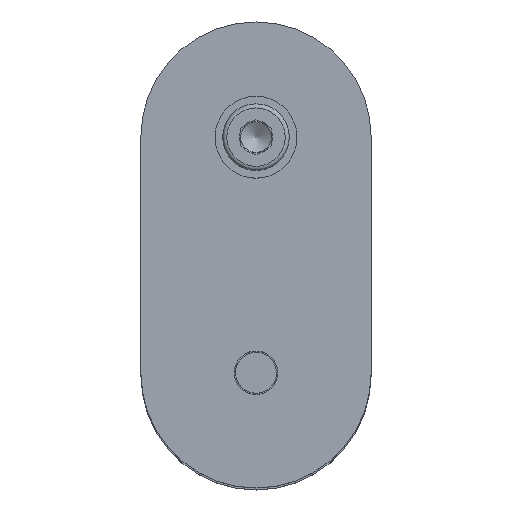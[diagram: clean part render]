
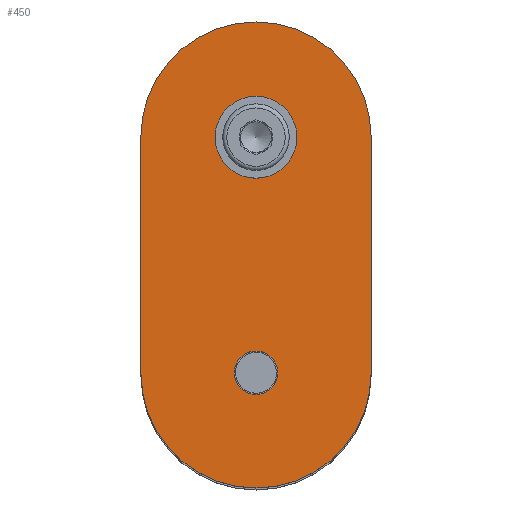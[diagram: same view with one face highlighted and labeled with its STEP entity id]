
A CAD part, top view. The second image highlights one B-rep face of the part: STEP entity #450.
In plain terms, the highlighted planar face has unit normal (0, 0, 1).
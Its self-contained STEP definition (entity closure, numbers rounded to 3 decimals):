
#1 = DIRECTION ( 'NONE',  ( 0., 0., 1. ) ) ;
#53 = DIRECTION ( 'NONE',  ( 0., 0., 1. ) ) ;
#62 = CARTESIAN_POINT ( 'NONE',  ( 0., 0., 8. ) ) ;
#76 = VECTOR ( 'NONE', #914, 1000. ) ;
#79 = CARTESIAN_POINT ( 'NONE',  ( 45., -46., 8. ) ) ;
#119 = VERTEX_POINT ( 'NONE', #772 ) ;
#157 = DIRECTION ( 'NONE',  ( 0., 0., 1. ) ) ;
#175 = AXIS2_PLACEMENT_3D ( 'NONE', #1868, #53, #704 ) ;
#211 = DIRECTION ( 'NONE',  ( 0., -1., 0. ) ) ;
#259 = CARTESIAN_POINT ( 'NONE',  ( 45., 0., 8. ) ) ;
#308 = ORIENTED_EDGE ( 'NONE', *, *, #1117, .T. ) ;
#319 = ORIENTED_EDGE ( 'NONE', *, *, #1036, .T. ) ;
#441 = ORIENTED_EDGE ( 'NONE', *, *, #2034, .T. ) ;
#450 = ADVANCED_FACE ( 'NONE', ( #1276, #514, #1308 ), #1851, .T. ) ;
#463 = AXIS2_PLACEMENT_3D ( 'NONE', #582, #1220, #1593 ) ;
#466 = CARTESIAN_POINT ( 'NONE',  ( 26.75, -46., 8. ) ) ;
#514 = FACE_OUTER_BOUND ( 'NONE', #609, .T. ) ;
#545 = LINE ( 'NONE', #62, #826 ) ;
#547 = VERTEX_POINT ( 'NONE', #79 ) ;
#582 = CARTESIAN_POINT ( 'NONE',  ( 22.5, -46., 8. ) ) ;
#597 = CARTESIAN_POINT ( 'NONE',  ( 45., 0., 8. ) ) ;
#609 = EDGE_LOOP ( 'NONE', ( #881, #319, #441, #308 ) ) ;
#668 = VERTEX_POINT ( 'NONE', #597 ) ;
#679 = DIRECTION ( 'NONE',  ( 0., 0., 1. ) ) ;
#687 = CIRCLE ( 'NONE', #1411, 4.25 ) ;
#704 = DIRECTION ( 'NONE',  ( 1., 0., 0. ) ) ;
#772 = CARTESIAN_POINT ( 'NONE',  ( 26.75, 0., 8. ) ) ;
#826 = VECTOR ( 'NONE', #211, 1000. ) ;
#865 = CARTESIAN_POINT ( 'NONE',  ( 0., -46., 8. ) ) ;
#881 = ORIENTED_EDGE ( 'NONE', *, *, #2107, .T. ) ;
#914 = DIRECTION ( 'NONE',  ( 0., 1., 0. ) ) ;
#921 = ORIENTED_EDGE ( 'NONE', *, *, #1133, .F. ) ;
#944 = CIRCLE ( 'NONE', #1111, 22.5 ) ;
#987 = DIRECTION ( 'NONE',  ( 1., 0., 0. ) ) ;
#1036 = EDGE_CURVE ( 'NONE', #547, #668, #1041, .T. ) ;
#1041 = LINE ( 'NONE', #259, #76 ) ;
#1067 = VERTEX_POINT ( 'NONE', #1221 ) ;
#1111 = AXIS2_PLACEMENT_3D ( 'NONE', #1485, #679, #1331 ) ;
#1117 = EDGE_CURVE ( 'NONE', #1067, #1509, #545, .T. ) ;
#1133 = EDGE_CURVE ( 'NONE', #119, #119, #1271, .T. ) ;
#1162 = EDGE_LOOP ( 'NONE', ( #1332 ) ) ;
#1220 = DIRECTION ( 'NONE',  ( 0., 0., 1. ) ) ;
#1221 = CARTESIAN_POINT ( 'NONE',  ( 0., 0., 8. ) ) ;
#1271 = CIRCLE ( 'NONE', #175, 4.25 ) ;
#1276 = FACE_BOUND ( 'NONE', #1811, .T. ) ;
#1307 = EDGE_CURVE ( 'NONE', #1933, #1933, #687, .T. ) ;
#1308 = FACE_BOUND ( 'NONE', #1162, .T. ) ;
#1331 = DIRECTION ( 'NONE',  ( -1., 0., 0. ) ) ;
#1332 = ORIENTED_EDGE ( 'NONE', *, *, #1307, .F. ) ;
#1350 = CARTESIAN_POINT ( 'NONE',  ( 22.5, -46., 8. ) ) ;
#1411 = AXIS2_PLACEMENT_3D ( 'NONE', #1951, #157, #1805 ) ;
#1480 = CIRCLE ( 'NONE', #463, 22.5 ) ;
#1485 = CARTESIAN_POINT ( 'NONE',  ( 22.5, 0., 8. ) ) ;
#1509 = VERTEX_POINT ( 'NONE', #865 ) ;
#1593 = DIRECTION ( 'NONE',  ( 1., 0., 0. ) ) ;
#1736 = AXIS2_PLACEMENT_3D ( 'NONE', #1350, #1, #987 ) ;
#1805 = DIRECTION ( 'NONE',  ( 1., 0., 0. ) ) ;
#1811 = EDGE_LOOP ( 'NONE', ( #921 ) ) ;
#1851 = PLANE ( 'NONE',  #1736 ) ;
#1868 = CARTESIAN_POINT ( 'NONE',  ( 22.5, 0., 8. ) ) ;
#1933 = VERTEX_POINT ( 'NONE', #466 ) ;
#1951 = CARTESIAN_POINT ( 'NONE',  ( 22.5, -46., 8. ) ) ;
#2034 = EDGE_CURVE ( 'NONE', #668, #1067, #944, .T. ) ;
#2107 = EDGE_CURVE ( 'NONE', #1509, #547, #1480, .T. ) ;
